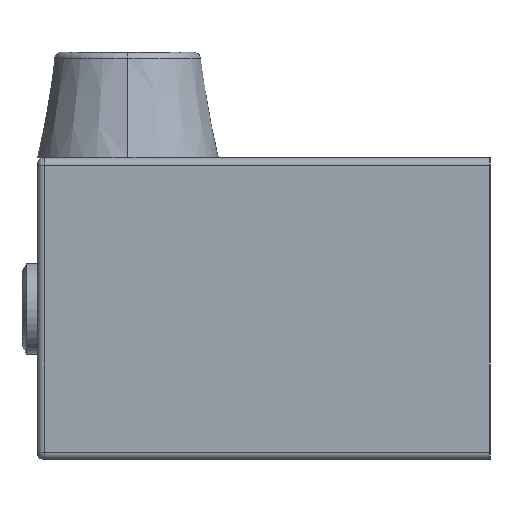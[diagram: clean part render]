
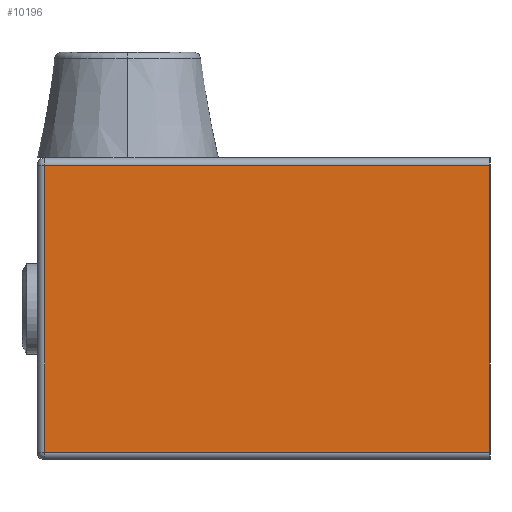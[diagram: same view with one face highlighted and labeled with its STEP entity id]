
A CAD part, left-side view. The second image highlights one B-rep face of the part: STEP entity #10196.
In plain terms, the highlighted planar face has unit normal (-1, 0, 0).
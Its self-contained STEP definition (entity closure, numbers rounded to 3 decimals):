
#126 = CARTESIAN_POINT ( 'NONE',  ( -0.773, -6.379, 130.129 ) ) ;
#879 = CARTESIAN_POINT ( 'NONE',  ( -0.773, -6.379, 110.629 ) ) ;
#1269 = VERTEX_POINT ( 'NONE', #10758 ) ;
#1918 = CARTESIAN_POINT ( 'NONE',  ( -0.773, 23.121, 129.629 ) ) ;
#1919 = AXIS2_PLACEMENT_3D ( 'NONE', #126, #3370, #8572 ) ;
#2232 = VERTEX_POINT ( 'NONE', #1918 ) ;
#2271 = VECTOR ( 'NONE', #3431, 1000. ) ;
#2941 = EDGE_CURVE ( 'NONE', #2232, #1269, #5657, .T. ) ;
#3370 = DIRECTION ( 'NONE',  ( 1., 0., 0. ) ) ;
#3402 = VERTEX_POINT ( 'NONE', #7263 ) ;
#3407 = LINE ( 'NONE', #5353, #3734 ) ;
#3431 = DIRECTION ( 'NONE',  ( 0., 0., -1. ) ) ;
#3734 = VECTOR ( 'NONE', #6915, 1000. ) ;
#3948 = VERTEX_POINT ( 'NONE', #6445 ) ;
#4188 = DIRECTION ( 'NONE',  ( 0., 0., -1. ) ) ;
#4548 = LINE ( 'NONE', #879, #5027 ) ;
#5027 = VECTOR ( 'NONE', #10471, 1000. ) ;
#5353 = CARTESIAN_POINT ( 'NONE',  ( -0.773, -6.379, 129.629 ) ) ;
#5524 = PLANE ( 'NONE',  #1919 ) ;
#5657 = LINE ( 'NONE', #6499, #11020 ) ;
#6041 = CARTESIAN_POINT ( 'NONE',  ( -0.773, -6.379, 130.129 ) ) ;
#6445 = CARTESIAN_POINT ( 'NONE',  ( -0.773, -6.379, 129.629 ) ) ;
#6499 = CARTESIAN_POINT ( 'NONE',  ( -0.773, 23.121, 130.129 ) ) ;
#6643 = EDGE_CURVE ( 'NONE', #3948, #2232, #3407, .T. ) ;
#6915 = DIRECTION ( 'NONE',  ( 0., 1., 0. ) ) ;
#7189 = ORIENTED_EDGE ( 'NONE', *, *, #8234, .T. ) ;
#7263 = CARTESIAN_POINT ( 'NONE',  ( -0.773, -6.379, 110.629 ) ) ;
#7695 = ORIENTED_EDGE ( 'NONE', *, *, #8500, .F. ) ;
#7859 = EDGE_LOOP ( 'NONE', ( #9962, #7189, #7695, #9338 ) ) ;
#8062 = FACE_OUTER_BOUND ( 'NONE', #7859, .T. ) ;
#8234 = EDGE_CURVE ( 'NONE', #1269, #3402, #4548, .T. ) ;
#8500 = EDGE_CURVE ( 'NONE', #3948, #3402, #8742, .T. ) ;
#8572 = DIRECTION ( 'NONE',  ( 0., 0., -1. ) ) ;
#8742 = LINE ( 'NONE', #6041, #2271 ) ;
#9338 = ORIENTED_EDGE ( 'NONE', *, *, #6643, .T. ) ;
#9962 = ORIENTED_EDGE ( 'NONE', *, *, #2941, .T. ) ;
#10196 = ADVANCED_FACE ( 'NONE', ( #8062 ), #5524, .F. ) ;
#10471 = DIRECTION ( 'NONE',  ( 0., -1., 0. ) ) ;
#10758 = CARTESIAN_POINT ( 'NONE',  ( -0.773, 23.121, 110.629 ) ) ;
#11020 = VECTOR ( 'NONE', #4188, 1000. ) ;
